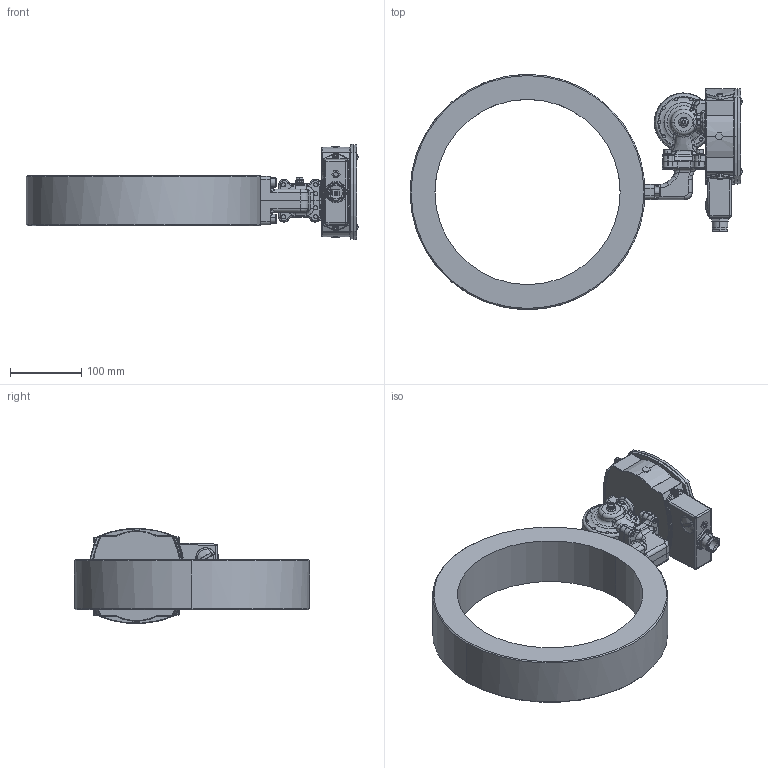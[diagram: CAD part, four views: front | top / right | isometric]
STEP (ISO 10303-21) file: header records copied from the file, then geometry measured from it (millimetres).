
FILE_DESCRIPTION (( 'STEP AP214' ), '1' );
FILE_NAME ('S FA250.STEP', '2016-09-21T07:42:14', ( 'User' ), ( 'HP' ), 'SwSTEP 2.0', 'SolidWorks 2016', '' );
FILE_SCHEMA (( 'AUTOMOTIVE_DESIGN' ));
Length unit declared in the file: millimetre
Products named in the file (35): m_X_E4ssingsmembran_1; ID_1_4; S hus; ID_1_4_8; S FA250; ID_14; ID_13; FA250 anslutningsror; ID_12; fa hals; ID_1_1; ID_2_2; ID_1_4_5; ID_1_2; ID_10; membranhus br; ID_1_4_4; M5 membranskruvar_1; ID_1_4_3; skruv_membranhus_1; ID_1_1_2; fj_X_E4derbricka till membranhus BR_1; ID_9; MC6S M6x22_1; ID_1_4_2; Lock kontrollerad HMAB ELETTA 20160908_1; ID_7_2; ID_6_1; Membranhus kontrollerad HMAB ELETTA 20160908_1; ID_5_2; ID_4_3; S2_25_internal_2_1; ID_3_3; kupolmutter_1; ID_2_4
Assembly tree (54 placements, depth 5):
  S FA250
    S hus
      ID_1_1
        ID_1_4
        ID_2_4
        ID_3_3
        ID_4_3
        ID_5_2
        ID_6_1  x4
        ID_7_2  x4
        ID_1_4_2
        ID_1_1_2
          ID_9  x2
        ID_1_4_3
        ID_1_4_4
        ID_10
        ID_1_4_5
      ID_12  x2
      ID_13
      ID_14
      ID_1_4_8
    membranhus br
      S2_25_internal_2_1
        m_X_E4ssingsmembran_1
        kupolmutter_1
      Membranhus kontrollerad HMAB ELETTA 20160908_1
      Lock kontrollerad HMAB ELETTA 20160908_1
      MC6S M6x22_1  x4
      M5 membranskruvar_1  x9
        fj_X_E4derbricka till membranhus BR_1
        skruv_membranhus_1
    fa hals
      ID_1_2
      ID_2_2  x2
    FA250 anslutningsror
Bounding box: 466 x 330 x 133.42 mm (x, y, z)
Volume: 2757370.6 mm3; surface area: 441950.5 mm2
Topology: 56 solids, 56 shells, 2415 faces, 5936 edges, 3683 vertices
Faces by surface type: plane 862, cylinder 687, bspline 585, cone 207, torus 67, sphere 7
Entity records: 101060 total; most frequent: CARTESIAN_POINT 58770, ORIENTED_EDGE 9338, DIRECTION 7188, EDGE_CURVE 4669, VERTEX_POINT 2916, AXIS2_PLACEMENT_3D 2681, EDGE_LOOP 2107, FACE_OUTER_BOUND 1892
